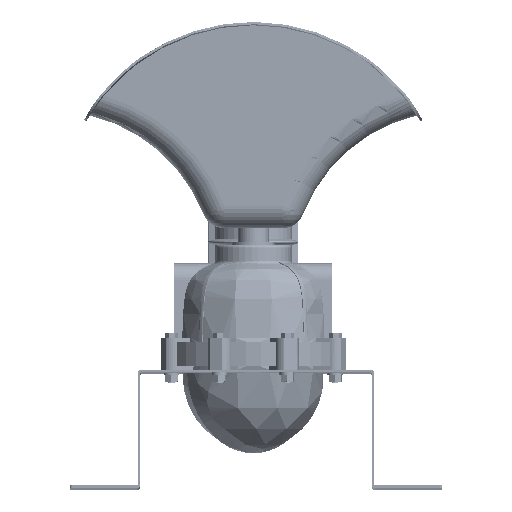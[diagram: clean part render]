
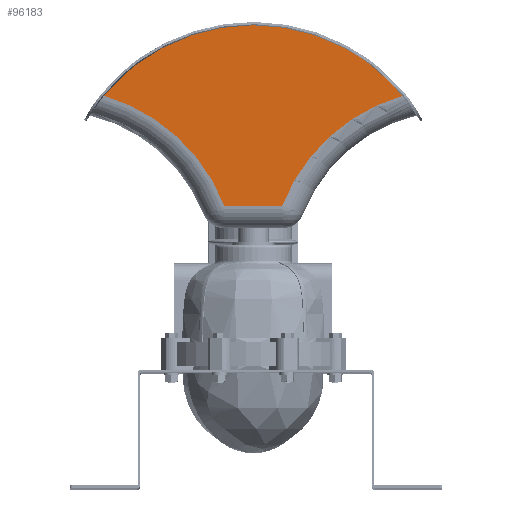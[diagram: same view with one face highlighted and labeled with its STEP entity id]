
A CAD part, top view. The second image highlights one B-rep face of the part: STEP entity #96183.
In plain terms, the highlighted planar face has unit normal (0, 0, 1).
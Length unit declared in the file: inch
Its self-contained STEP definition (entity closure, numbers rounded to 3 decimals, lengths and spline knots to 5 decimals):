
#48 = CARTESIAN_POINT ( 'NONE',  ( 0., 8.57031, 4. ) ) ;
#1342 = CARTESIAN_POINT ( 'NONE',  ( -2.62313, 0.35132, 4. ) ) ;
#3363 = CARTESIAN_POINT ( 'NONE',  ( 6.61694, 3.13249, 4. ) ) ;
#4243 = DIRECTION ( 'NONE',  ( 0., 0., -1. ) ) ;
#6318 = CARTESIAN_POINT ( 'NONE',  ( -5.12747, 1.70305, 4. ) ) ;
#8947 = DIRECTION ( 'NONE',  ( 1., 0., 0. ) ) ;
#10217 = CARTESIAN_POINT ( 'NONE',  ( -4.76526, 1.43997, 4. ) ) ;
#12623 = AXIS2_PLACEMENT_3D ( 'NONE', #56987, #4243, #65826 ) ;
#14625 = VERTEX_POINT ( 'NONE', #28421 ) ;
#15147 = CARTESIAN_POINT ( 'NONE',  ( -6.61694, 3.13249, 4. ) ) ;
#16199 = VERTEX_POINT ( 'NONE', #25305 ) ;
#16324 = CARTESIAN_POINT ( 'NONE',  ( -5.12747, 1.70305, 4. ) ) ;
#16732 = EDGE_CURVE ( 'NONE', #32052, #46750, #89650, .T. ) ;
#17315 = ORIENTED_EDGE ( 'NONE', *, *, #70026, .T. ) ;
#18641 = B_SPLINE_CURVE_WITH_KNOTS ( 'NONE', 3,
 ( #27532, #18649, #36372, #98059, #45228, #106900, #54105, #1342, #62914, #10217, #71819 ),
 .UNSPECIFIED., .F., .F.,
 ( 4, 1, 1, 1, 1, 1, 1, 1, 4 ),
 ( 0.00006, 0.04292, 0.08584, 0.12877, 0.17169, 0.2154, 0.2591, 0.30281, 0.32886 ),
 .UNSPECIFIED. ) ;
#18649 = CARTESIAN_POINT ( 'NONE',  ( 6.26481, 2.77348, 4. ) ) ;
#18784 = DIRECTION ( 'NONE',  ( 0., 0., -1. ) ) ;
#21905 = AXIS2_PLACEMENT_3D ( 'NONE', #67541, #41333, #103032 ) ;
#24752 = DIRECTION ( 'NONE',  ( -1., 0., 0. ) ) ;
#25305 = CARTESIAN_POINT ( 'NONE',  ( -1.28387, 8., 4. ) ) ;
#25802 = AXIS2_PLACEMENT_3D ( 'NONE', #71570, #18784, #80496 ) ;
#26940 = ORIENTED_EDGE ( 'NONE', *, *, #70163, .F. ) ;
#27532 = CARTESIAN_POINT ( 'NONE',  ( 6.61694, 3.13249, 4. ) ) ;
#28421 = CARTESIAN_POINT ( 'NONE',  ( -5.02977, 1.63117, 4. ) ) ;
#32052 = VERTEX_POINT ( 'NONE', #16324 ) ;
#32479 = PLANE ( 'NONE',  #21905 ) ;
#34901 = CIRCLE ( 'NONE', #106622, 8.57031 ) ;
#36372 = CARTESIAN_POINT ( 'NONE',  ( 5.62524, 2.02305, 4. ) ) ;
#37258 = ORIENTED_EDGE ( 'NONE', *, *, #110386, .T. ) ;
#41333 = DIRECTION ( 'NONE',  ( 0., 0., 1. ) ) ;
#43225 = FACE_OUTER_BOUND ( 'NONE', #110934, .T. ) ;
#45228 = CARTESIAN_POINT ( 'NONE',  ( 2.71306, 0.38317, 4. ) ) ;
#46750 = VERTEX_POINT ( 'NONE', #106634 ) ;
#48480 = ORIENTED_EDGE ( 'NONE', *, *, #16732, .F. ) ;
#53575 = CIRCLE ( 'NONE', #12623, 8.16733 ) ;
#54105 = CARTESIAN_POINT ( 'NONE',  ( -0.84908, -0.01678, 4. ) ) ;
#56987 = CARTESIAN_POINT ( 'NONE',  ( 8.88917, 10.97737, 4. ) ) ;
#58271 = EDGE_CURVE ( 'NONE', #32052, #14625, #34901, .T. ) ;
#58308 = VERTEX_POINT ( 'NONE', #71276 ) ;
#59049 = CARTESIAN_POINT ( 'NONE',  ( -5.2711, 1.81061, 4. ) ) ;
#61657 = DIRECTION ( 'NONE',  ( 0., 0., 1. ) ) ;
#62914 = CARTESIAN_POINT ( 'NONE',  ( -4.00492, 0.9624, 4. ) ) ;
#65826 = DIRECTION ( 'NONE',  ( 1., 0., 0. ) ) ;
#67541 = CARTESIAN_POINT ( 'NONE',  ( 8.88917, 10.97737, 4. ) ) ;
#67922 = CARTESIAN_POINT ( 'NONE',  ( -6.25757, 2.76731, 4. ) ) ;
#70026 = EDGE_CURVE ( 'NONE', #58308, #16199, #76661, .T. ) ;
#70163 = EDGE_CURVE ( 'NONE', #108959, #14625, #18641, .T. ) ;
#71276 = CARTESIAN_POINT ( 'NONE',  ( 1.28387, 8., 4. ) ) ;
#71570 = CARTESIAN_POINT ( 'NONE',  ( -8.88917, 10.97737, 4. ) ) ;
#71819 = CARTESIAN_POINT ( 'NONE',  ( -5.02977, 1.63117, 4. ) ) ;
#71924 = CIRCLE ( 'NONE', #25802, 8.16733 ) ;
#73663 = ORIENTED_EDGE ( 'NONE', *, *, #108652, .T. ) ;
#76661 = LINE ( 'NONE', #93349, #97348 ) ;
#80496 = DIRECTION ( 'NONE',  ( 1., 0., 0. ) ) ;
#89650 = B_SPLINE_CURVE_WITH_KNOTS ( 'NONE', 3,
 ( #6318, #59049, #102652, #67922, #15147 ),
 .UNSPECIFIED., .F., .F.,
 ( 4, 1, 4 ),
 ( 0.33194, 0.34499, 0.38448 ),
 .UNSPECIFIED. ) ;
#93349 = CARTESIAN_POINT ( 'NONE',  ( -2., 8., 4. ) ) ;
#95701 = ORIENTED_EDGE ( 'NONE', *, *, #58271, .T. ) ;
#96183 = ADVANCED_FACE ( 'NONE', ( #43225 ), #32479, .T. ) ;
#97348 = VECTOR ( 'NONE', #24752, 39.37008 ) ;
#98059 = CARTESIAN_POINT ( 'NONE',  ( 4.27171, 1.08922, 4. ) ) ;
#102652 = CARTESIAN_POINT ( 'NONE',  ( -5.82443, 2.25936, 4. ) ) ;
#103032 = DIRECTION ( 'NONE',  ( 1., 0., 0. ) ) ;
#106622 = AXIS2_PLACEMENT_3D ( 'NONE', #48, #61657, #8947 ) ;
#106634 = CARTESIAN_POINT ( 'NONE',  ( -6.61694, 3.13249, 4. ) ) ;
#106900 = CARTESIAN_POINT ( 'NONE',  ( 0.96811, -0.00288, 4. ) ) ;
#108652 = EDGE_CURVE ( 'NONE', #16199, #46750, #71924, .T. ) ;
#108959 = VERTEX_POINT ( 'NONE', #3363 ) ;
#110386 = EDGE_CURVE ( 'NONE', #108959, #58308, #53575, .T. ) ;
#110934 = EDGE_LOOP ( 'NONE', ( #26940, #37258, #17315, #73663, #48480, #95701 ) ) ;
